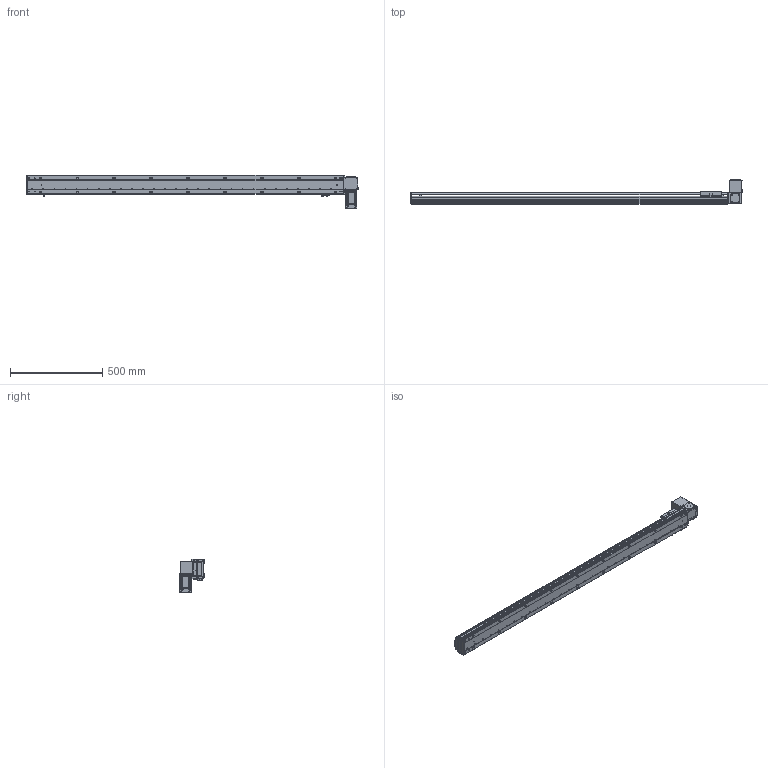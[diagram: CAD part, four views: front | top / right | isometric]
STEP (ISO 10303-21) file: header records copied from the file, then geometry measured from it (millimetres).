
FILE_DESCRIPTION (( 'STEP AP203' ), '1' );
FILE_NAME ('RY100-T-300-UL.SLDASM_1500.step', '2024-04-25T08:40:41', ( '盈信电脑' ), ( '东莞市道滘镇水果街19号' ), 'SwSTEP 2.0', 'SolidWorks 2016', '' );
FILE_SCHEMA (( 'CONFIG_CONTROL_DESIGN' ));
Length unit declared in the file: millimetre
Products named in the file (15): RY100綴裔啣; 1; RY100俋离覜茼え; RY100-T粣創揤踡裔; 覜茼ん672; RY100-T翋肮祭謫裔啣2; RY100-T-300-RK倰第菁釱_1500; RY100-T左右折电机安装板; RY100-T肮祭謫臏賑輸; RY100-T-300-UL.SLDASM_1500; RY80-T肮祭謫奻殏俋欶; RY100-T-300-RK倰第奻裔_1500; RY100-T肮祭謫翋盓傅釱; RY100-T翋肮祭謫裔啣; 滅袉蝶18-10
Assembly tree (17 placements, depth 2):
  RY100-T-300-UL.SLDASM_1500
    RY100-T-300-RK倰第菁釱_1500
    RY100-T-300-RK倰第奻裔_1500
    RY100-T肮祭謫臏賑輸
    RY100綴裔啣
    覜茼ん672  x3
    RY100俋离覜茼え
    RY100-T肮祭謫翋盓傅釱
    滅袉蝶18-10  x2
    RY100-T翋肮祭謫裔啣2
    RY100-T翋肮祭謫裔啣
    1
    RY100-T左右折电机安装板
    RY80-T肮祭謫奻殏俋欶
    RY100-T粣創揤踡裔
Bounding box: 1800 x 130.5 x 182.5 mm (x, y, z)
Volume: 3425245.5 mm3; surface area: 1436335.2 mm2
Topology: 17 solids, 17 shells, 2263 faces, 6311 edges, 4101 vertices
Faces by surface type: plane 1211, cylinder 839, cone 135, bspline 78
Entity records: 73331 total; most frequent: CARTESIAN_POINT 17755, ORIENTED_EDGE 11454, DIRECTION 10913, EDGE_CURVE 5727, VERTEX_POINT 3769, VECTOR 3661, LINE 3661, AXIS2_PLACEMENT_3D 3626
